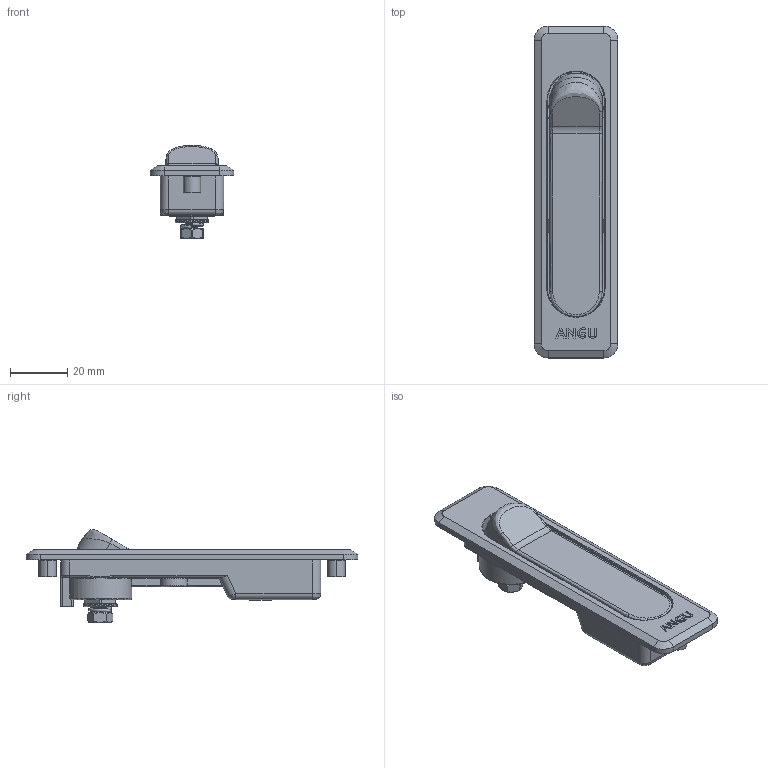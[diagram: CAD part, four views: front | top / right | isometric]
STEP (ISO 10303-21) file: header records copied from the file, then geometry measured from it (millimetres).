
FILE_DESCRIPTION(/* description */ (''),/* implementation_level */ '2;1');
FILE_NAME(/* name */ 'A-505-2 平面上壓式把手',/* time_stamp */ '2023-05-09T14:29:11+08:00',/* author */ (''),/* organization */ (''),/* preprocessor_version */ 'ST-DEVELOPER v16.5',/* originating_system */ 'Rhino 7.28',/* authorisation */ '');
FILE_SCHEMA (('CONFIG_CONTROL_DESIGN'));
Length unit declared in the file: millimetre
Products named in the file (1): Document
Bounding box: 29.45 x 116.45 x 32.73 mm (x, y, z)
Volume: 22678.4 mm3; surface area: 21257.4 mm2
Topology: 2 solids, 2 shells, 996 faces, 2576 edges, 1636 vertices
Faces by surface type: plane 453, bspline 350, cylinder 193
Entity records: 48997 total; most frequent: CARTESIAN_POINT 32354, ORIENTED_EDGE 5116, EDGE_CURVE 2558, B_SPLINE_CURVE_WITH_KNOTS 1979, VERTEX_POINT 1636, EDGE_LOOP 1072, ADVANCED_FACE 996, FACE_OUTER_BOUND 996
